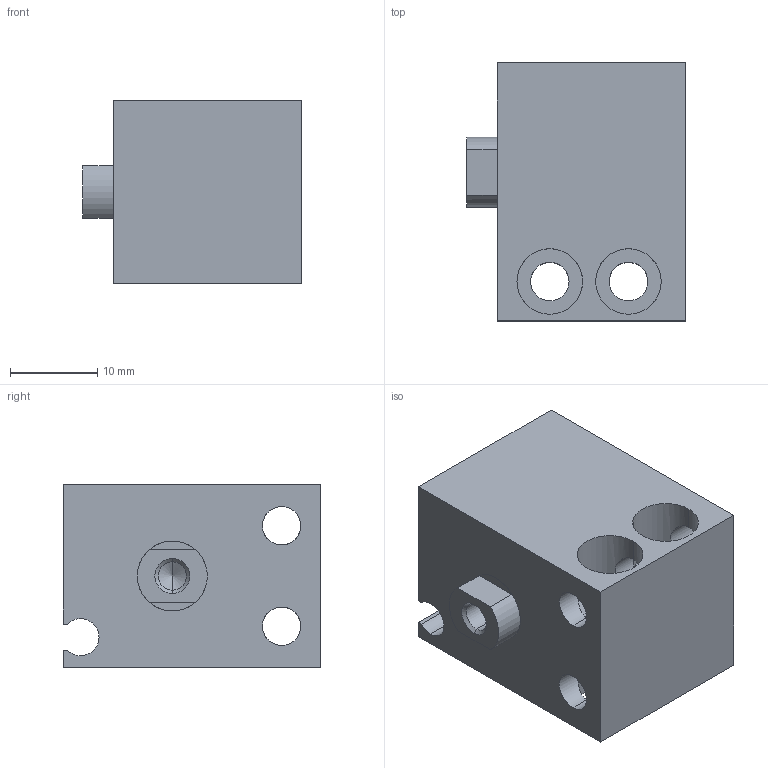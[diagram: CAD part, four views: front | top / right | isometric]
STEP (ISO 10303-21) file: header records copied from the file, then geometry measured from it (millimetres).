
FILE_DESCRIPTION (( 'STEP AP203' ), '1' );
FILE_NAME ('CLJB16-5.STEP', '2020-07-30T19:22:43', ( '' ), ( '' ), 'SwSTEP 2.0', 'SolidWorks 2019', '' );
FILE_SCHEMA (( 'CONFIG_CONTROL_DESIGN' ));
Length unit declared in the file: millimetre
Products named in the file (1): CLJB16-5
Bounding box: 25 x 29.5 x 21 mm (x, y, z)
Volume: 10633.1 mm3; surface area: 6228 mm2
Topology: 2 solids, 2 shells, 75 faces, 188 edges, 113 vertices
Faces by surface type: cylinder 41, plane 22, cone 12
Entity records: 3119 total; most frequent: CARTESIAN_POINT 1223, DIRECTION 394, ORIENTED_EDGE 364, EDGE_CURVE 182, AXIS2_PLACEMENT_3D 152, VERTEX_POINT 113, EDGE_LOOP 93, VECTOR 90
